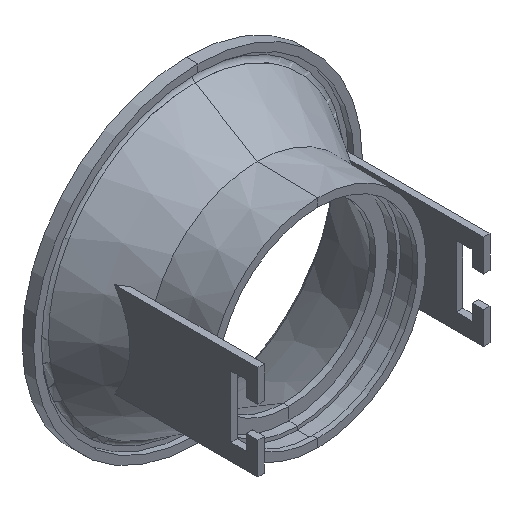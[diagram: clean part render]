
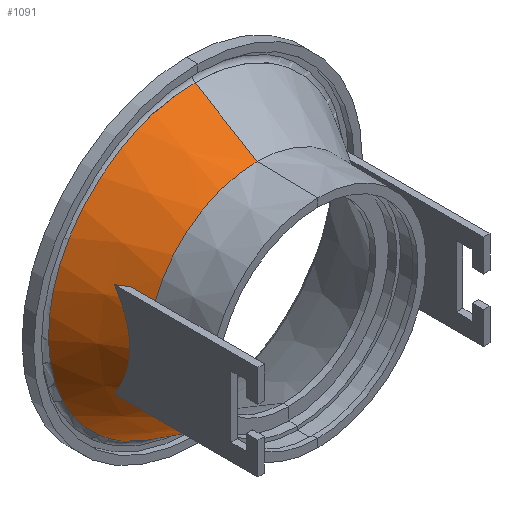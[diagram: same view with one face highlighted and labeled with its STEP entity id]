
A CAD part, isometric view. The second image highlights one B-rep face of the part: STEP entity #1091.
In plain terms, the highlighted conical face has half-angle 30.963 degrees and reference radius 29.236 mm.
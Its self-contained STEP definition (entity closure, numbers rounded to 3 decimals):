
#37=B_SPLINE_CURVE_WITH_KNOTS('',3,(#1852,#1853,#1854,#1855),
 .UNSPECIFIED.,.F.,.F.,(4,4),(0.833,1.),.UNSPECIFIED.);
#38=B_SPLINE_CURVE_WITH_KNOTS('',3,(#1857,#1858,#1859,#1860,#1861,#1862,
#1863),.UNSPECIFIED.,.F.,.F.,(4,1,1,1,4),(0.167,0.333,
0.5,0.667,0.833),.UNSPECIFIED.);
#39=B_SPLINE_CURVE_WITH_KNOTS('',3,(#1864,#1865,#1866,#1867),
 .UNSPECIFIED.,.F.,.F.,(4,4),(0.,0.167),.UNSPECIFIED.);
#59=CIRCLE('',#1170,28.273);
#97=CONICAL_SURFACE('',#1169,29.236,0.54);
#151=FACE_OUTER_BOUND('',#215,.T.);
#215=EDGE_LOOP('',(#902,#903,#904,#905,#906,#907));
#312=LINE('',#1870,#408);
#313=LINE('',#1873,#409);
#408=VECTOR('',#1384,304.8);
#409=VECTOR('',#1387,304.8);
#498=VERTEX_POINT('',#1751);
#501=VERTEX_POINT('',#1805);
#502=VERTEX_POINT('',#1851);
#503=VERTEX_POINT('',#1856);
#504=VERTEX_POINT('',#1869);
#505=VERTEX_POINT('',#1871);
#635=EDGE_CURVE('',#502,#501,#37,.T.);
#636=EDGE_CURVE('',#503,#502,#38,.T.);
#637=EDGE_CURVE('',#498,#503,#39,.T.);
#638=EDGE_CURVE('',#504,#498,#312,.T.);
#640=EDGE_CURVE('',#501,#505,#313,.T.);
#641=EDGE_CURVE('',#504,#505,#59,.T.);
#902=ORIENTED_EDGE('',*,*,#637,.T.);
#903=ORIENTED_EDGE('',*,*,#636,.T.);
#904=ORIENTED_EDGE('',*,*,#635,.T.);
#905=ORIENTED_EDGE('',*,*,#640,.T.);
#906=ORIENTED_EDGE('',*,*,#641,.F.);
#907=ORIENTED_EDGE('',*,*,#638,.T.);
#1091=ADVANCED_FACE('',(#151),#97,.T.);
#1169=AXIS2_PLACEMENT_3D('',#1874,#1388,#1389);
#1170=AXIS2_PLACEMENT_3D('',#1875,#1390,#1391);
#1384=DIRECTION('',(0.,-0.514,0.857));
#1387=DIRECTION('',(0.,-0.514,-0.857));
#1388=DIRECTION('center_axis',(0.,0.,
1.));
#1389=DIRECTION('ref_axis',(-0.588,0.809,0.));
#1390=DIRECTION('center_axis',(0.,0.,
-1.));
#1391=DIRECTION('ref_axis',(-0.588,0.809,0.));
#1751=CARTESIAN_POINT('',(0.,-37.9,-2.249));
#1805=CARTESIAN_POINT('',(0.,37.9,-2.249));
#1851=CARTESIAN_POINT('',(-18.95,32.823,-2.249));
#1852=CARTESIAN_POINT('Ctrl Pts',(-18.95,32.823,-2.249));
#1853=CARTESIAN_POINT('Ctrl Pts',(-13.247,36.168,-2.249));
#1854=CARTESIAN_POINT('Ctrl Pts',(-6.697,38.049,-2.249));
#1855=CARTESIAN_POINT('Ctrl Pts',(0.,37.9,
-2.249));
#1856=CARTESIAN_POINT('',(-18.95,-32.823,-2.249));
#1857=CARTESIAN_POINT('Ctrl Pts',(-18.95,-32.823,-2.249));
#1858=CARTESIAN_POINT('Ctrl Pts',(-24.654,-29.477,-2.249));
#1859=CARTESIAN_POINT('Ctrl Pts',(-34.368,-19.853,-2.249));
#1860=CARTESIAN_POINT('Ctrl Pts',(-39.666,0.,
-2.249));
#1861=CARTESIAN_POINT('Ctrl Pts',(-34.368,19.853,-2.249));
#1862=CARTESIAN_POINT('Ctrl Pts',(-24.654,29.477,-2.249));
#1863=CARTESIAN_POINT('Ctrl Pts',(-18.95,32.823,-2.249));
#1864=CARTESIAN_POINT('Ctrl Pts',(0.,-37.9,
-2.249));
#1865=CARTESIAN_POINT('Ctrl Pts',(-6.697,-38.049,-2.249));
#1866=CARTESIAN_POINT('Ctrl Pts',(-13.247,-36.168,-2.249));
#1867=CARTESIAN_POINT('Ctrl Pts',(-18.95,-32.823,-2.249));
#1869=CARTESIAN_POINT('',(0.,-28.273,-18.293));
#1870=CARTESIAN_POINT('',(0.,-28.273,-18.293));
#1871=CARTESIAN_POINT('',(0.,28.273,-18.293));
#1873=CARTESIAN_POINT('',(0.,37.9,-2.249));
#1874=CARTESIAN_POINT('Origin',(0.,0.,
-16.689));
#1875=CARTESIAN_POINT('Origin',(0.,0.,
-18.293));
